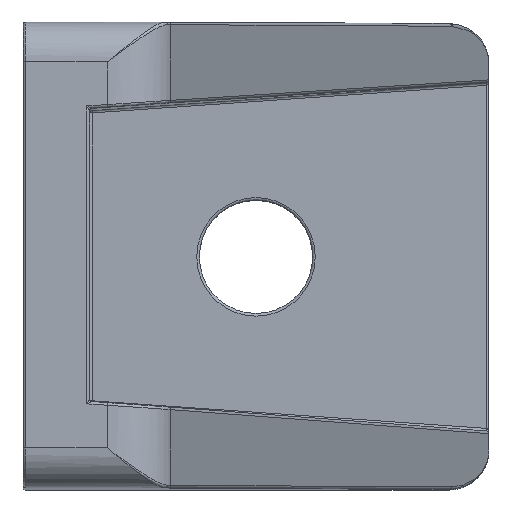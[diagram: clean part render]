
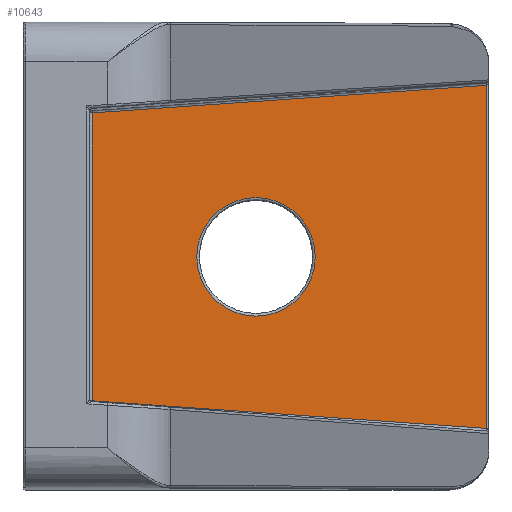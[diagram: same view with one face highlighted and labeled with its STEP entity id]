
A CAD part, top view. The second image highlights one B-rep face of the part: STEP entity #10643.
In plain terms, the highlighted planar face has unit normal (0, 0, 1).
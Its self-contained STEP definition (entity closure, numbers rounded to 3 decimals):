
#10089=CARTESIAN_POINT('',(5.2,6.687,6.5));
#10090=VERTEX_POINT('',#10089);
#10154=CARTESIAN_POINT('',(5.2,28.313,6.5));
#10155=VERTEX_POINT('',#10154);
#10187=CARTESIAN_POINT('',(34.8,30.383,6.5));
#10188=VERTEX_POINT('',#10187);
#10205=CARTESIAN_POINT('',(5.2,28.313,6.5));
#10206=DIRECTION('',(0.998,0.07,0.0));
#10207=VECTOR('',#10206,29.672);
#10208=LINE('',#10205,#10207);
#10209=EDGE_CURVE('',#10155,#10188,#10208,.T.);
#10302=CARTESIAN_POINT('',(5.2,6.687,6.5));
#10303=DIRECTION('',(0.0,1.0,0.0));
#10304=VECTOR('',#10303,21.627);
#10305=LINE('',#10302,#10304);
#10306=EDGE_CURVE('',#10090,#10155,#10305,.T.);
#10449=CARTESIAN_POINT('',(34.8,4.617,6.5));
#10450=VERTEX_POINT('',#10449);
#10458=CARTESIAN_POINT('',(34.8,4.617,6.5));
#10459=DIRECTION('',(-0.998,0.07,0.0));
#10460=VECTOR('',#10459,29.672);
#10461=LINE('',#10458,#10460);
#10462=EDGE_CURVE('',#10450,#10090,#10461,.T.);
#10616=CARTESIAN_POINT('',(17.5,17.5,6.5));
#10617=DIRECTION('',(0.0,0.0,1.0));
#10618=DIRECTION('',(1.0,0.0,0.0));
#10619=AXIS2_PLACEMENT_3D('',#10616,#10617,#10618);
#10620=PLANE('',#10619);
#10621=ORIENTED_EDGE('',*,*,#10209,.F.);
#10622=ORIENTED_EDGE('',*,*,#10306,.F.);
#10623=ORIENTED_EDGE('',*,*,#10462,.F.);
#10624=CARTESIAN_POINT('',(34.8,30.383,6.5));
#10625=DIRECTION('',(0.0,-1.0,0.0));
#10626=VECTOR('',#10625,25.767);
#10627=LINE('',#10624,#10626);
#10628=EDGE_CURVE('',#10188,#10450,#10627,.T.);
#10629=ORIENTED_EDGE('',*,*,#10628,.F.);
#10630=EDGE_LOOP('',(#10621,#10622,#10623,#10629));
#10631=FACE_OUTER_BOUND('',#10630,.T.);
#10632=CARTESIAN_POINT('',(21.95,17.5,6.5));
#10633=VERTEX_POINT('',#10632);
#10634=CARTESIAN_POINT('',(17.5,17.5,6.5));
#10635=DIRECTION('',(0.0,0.0,1.0));
#10636=DIRECTION('',(-1.0,0.0,0.0));
#10637=AXIS2_PLACEMENT_3D('',#10634,#10635,#10636);
#10638=CIRCLE('',#10637,4.45);
#10639=EDGE_CURVE('',#10633,#10633,#10638,.T.);
#10640=ORIENTED_EDGE('',*,*,#10639,.F.);
#10641=EDGE_LOOP('',(#10640));
#10642=FACE_BOUND('',#10641,.T.);
#10643=ADVANCED_FACE('',(#10631,#10642),#10620,.T.);
